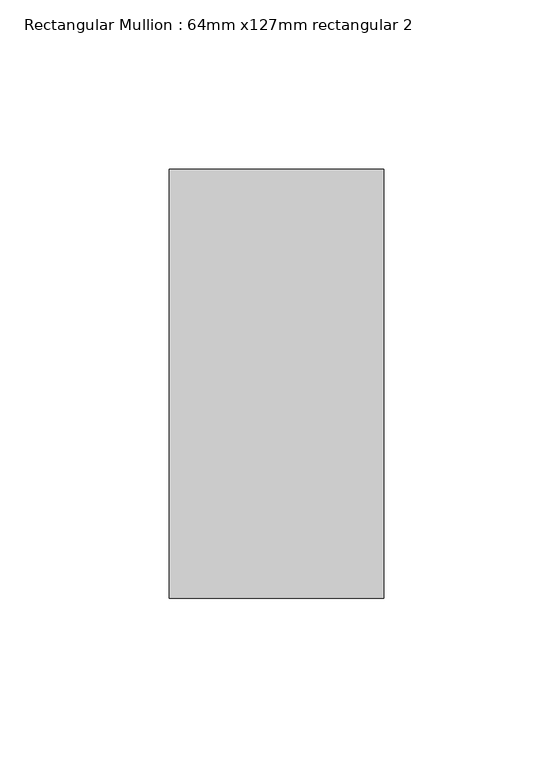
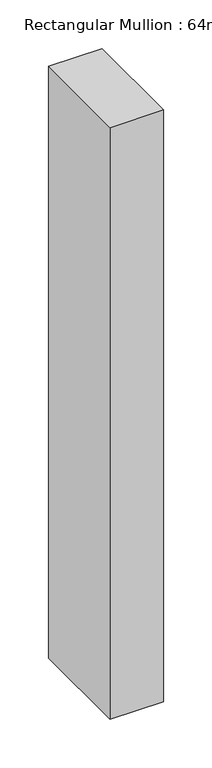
"""IFC4 building model written with IfcOpenShell, lengths in millimetres: member geometry, Rectangular Mullion : 64mm x127mm rectangular 2."""

from ifc_helpers import new_model, si_unit, frame, origin, place, context, project, spatial, polyline, outline, extrude, source, transform, mapped, element, save


def rectangular_mullion_64mm_x127mm_rectangular_2_7b995701(model_context):
    return source(origin(), model_context, "Body", "SweptSolid", [
        extrude(outline(polyline([(31.75, 63.5), (31.75, -63.5), (-31.75, -63.5), (-31.75, 63.5), (31.75, 63.5)])), frame((0.0, 0.0, -742.95), z_axis=(0.0, 0.0, 1.0), x_axis=(1.0, 0.0, 0.0)), (0.0, 0.0, 1.0), 742.95),
    ])


if __name__ == "__main__":
    model = new_model("IFC4")
    model_context = context("Model", 3, world=origin())
    ifc_project = project(units=[si_unit("LENGTHUNIT", "METRE", prefix="MILLI")], contexts=[model_context])
    site = spatial("IfcSite", under=ifc_project)
    building = spatial("IfcBuilding", under=site)
    placement = place(None, origin())
    rectangular_mullion_64mm_x127mm_rectangular_2_shape = rectangular_mullion_64mm_x127mm_rectangular_2_7b995701(model_context)
    element("IfcMember", 1, ObjectType="Rectangular Mullion : 64mm x127mm rectangular 2", at=placement, inside=building, context=model_context, shape_type="MappedRepresentation", body=[
        mapped(rectangular_mullion_64mm_x127mm_rectangular_2_shape, transform((0.0, 0.0, 0.0), x_axis=(1.0, 0.0, 0.0), y_axis=(0.0, 1.0, 0.0), z_axis=(0.0, 0.0, 1.0))),
    ])
    save(model, "model.ifc")
